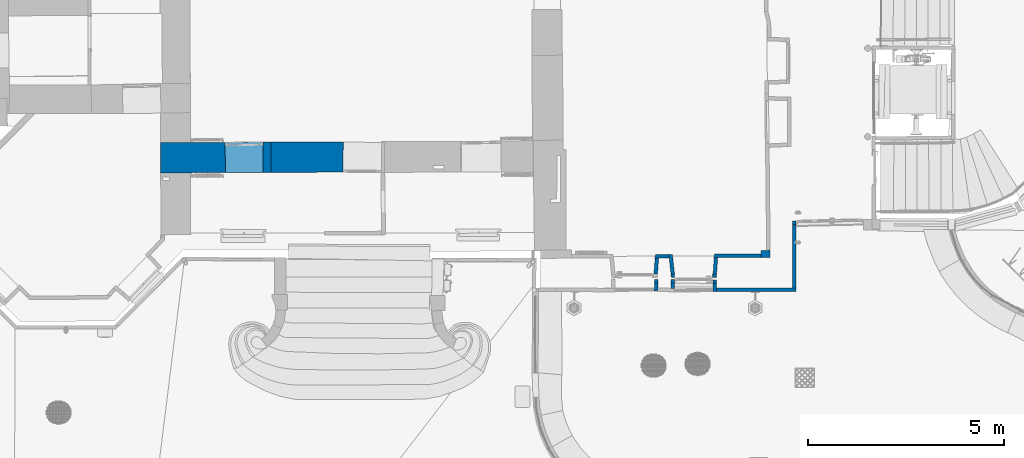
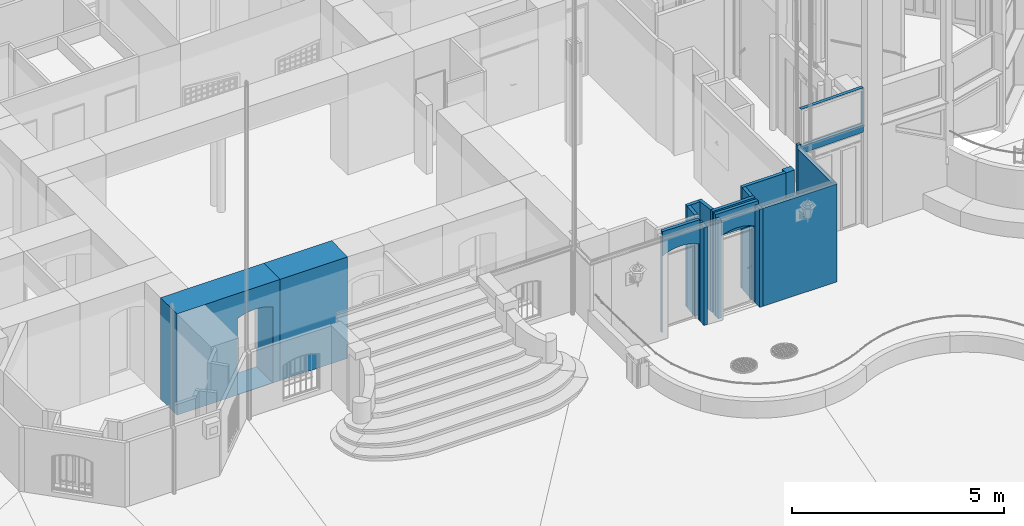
# One storey, part 17 of 133: 17 walls, 6 openings.
"""IFC2X3 building model written with IfcOpenShell, lengths in centimetres."""

from ifc_helpers import new_model, entity, si_unit, converted_unit, point, direction, frame, frame_2d, origin, origin_with_axes, origin_2d_with_axis, place, context, subcontext, project, spatial, polyline, circle_curve, trimmed, segment, composite_curve, rectangle, outline, extrude, clip, bounded_halfspace, shape, material, layer, layer_set, layer_usage, type_object, element, save


model = new_model("IFC2X3")

# Units and contexts
model_context = context("Model", 3, precision=0.0001, world=origin(), true_north=direction((0.225632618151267, 0.974212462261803, 0.0)))
body_context = subcontext(model_context, "Body", "Model", "MODEL_VIEW")
footprint_context = subcontext(model_context, "FootPrint", "Model", "MODEL_VIEW")
profile_context = subcontext(model_context, "Profile", "Model", "MODEL_VIEW")
ifc_project = project(units=[si_unit("LENGTHUNIT", "METRE", prefix="CENTI"), si_unit("AREAUNIT", "SQUARE_METRE", prefix="CENTI"), si_unit("VOLUMEUNIT", "CUBIC_METRE", prefix="CENTI"), converted_unit("PLANEANGLEUNIT", "DEGREE", entity("IfcRatioMeasure", 0.0174532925), si_unit("PLANEANGLEUNIT", "RADIAN"), dimensions=[0, 0, 0, 0, 0, 0, 0])], contexts=[model_context])

# Site, building, storey
site_placement = place(None, origin_with_axes())
site = spatial("IfcSite", under=ifc_project, at=site_placement, Name="Default Site", CompositionType="ELEMENT")
building_placement = place(site_placement, origin_with_axes())
building = spatial("IfcBuilding", under=site, at=building_placement, Name="Default Building", CompositionType="ELEMENT")
storey_placement = place(building_placement, frame((0.0, 0.0, -291.400371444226), z_axis=(0.0, 0.0, 1.0), x_axis=(1.0, 0.0, 0.0)))
storey = spatial("IfcBuildingStorey", under=building, at=storey_placement, Name="Rez-de-Jardin", CompositionType="ELEMENT", Elevation=-291.400371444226)

# Wall
ifc_material = material(Name="<aucun>")
ifc_layer_1 = layer(ifc_material, 9.0)
ifc_layer_set_1 = layer_set([ifc_layer_1], Name="default")
ifc_layer_usage_1 = layer_usage(ifc_layer_set_1, "AXIS2", "POSITIVE", -4.5)
wall_type_1 = type_object("IfcWallType", Name="default 90", PredefinedType="NOTDEFINED", material=ifc_layer_set_1)
wall_1_placement = place(storey_placement, frame((695.704330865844, -1011.09900998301, -1.94511073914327e-11), z_axis=(0.0, 0.0, 1.0), x_axis=(0.0689829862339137, 0.997617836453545, 0.0)))
element("IfcWallStandardCase", 1, at=wall_1_placement, inside=storey, type_object=wall_type_1, material=ifc_layer_usage_1, Name="Enveloppe 591976", context=body_context, shape_type="SweptSolid", body=[
    extrude(outline(polyline([(0.0, 4.50000000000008), (1.77635683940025e-13, -4.49999999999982), (41.8348419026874, -4.50000000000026), (41.184736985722, 4.49999999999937), (0.0, 4.50000000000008)])), frame((0.0, 0.0, 8.88178419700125e-14), z_axis=(0.0, 0.0, 1.0), x_axis=(1.0, 0.0, 0.0)), (0.0, 0.0, 1.0), 291.413221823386),
])

# Wall, opening
ifc_layer_usage_2 = layer_usage(ifc_layer_set_1, "AXIS2", "POSITIVE", -4.5)
wall_2_placement = place(storey_placement, frame((588.862316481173, -1015.6679540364, -1.94511073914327e-11), z_axis=(0.0, 0.0, 1.0), x_axis=(0.999993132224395, 0.00370614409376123, 0.0)))
wall_2 = element("IfcWallStandardCase", 2, at=wall_2_placement, inside=storey, type_object=wall_type_1, material=ifc_layer_usage_2, Name="Enveloppe 591977", context=body_context, shape_type="SweptSolid", body=[
    extrude(outline(polyline([(-4.89655817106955, 3.56586341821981), (-4.05483215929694, -4.49999999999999), (110.738127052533, -4.49999999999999), (111.346312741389, 3.84588154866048), (102.370114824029, 4.50000000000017), (4.05483215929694, 4.49999999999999), (-4.89655817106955, 3.56586341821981)])), frame((0.0, 0.0, 8.88178419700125e-14), z_axis=(0.0, 0.0, 1.0), x_axis=(1.0, 0.0, 0.0)), (0.0, 0.0, 1.0), 291.413221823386),
])
opening_1_placement = place(wall_2_placement, frame((4.08190985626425, 1.13686837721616e-13, 1.94506633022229e-11), z_axis=(0.0, 0.0, 1.0), x_axis=(1.0, 1.05384451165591e-15, 0.0)))
cartesian_point_1 = entity("IfcCartesianPoint", [0.0, 0.0, 214.0])
cartesian_point_2 = entity("IfcCartesianPoint", [97.0525833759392, 4.49999999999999])
element("IfcOpeningElement", 3, at=opening_1_placement, cuts=wall_2, Name="4294966358_11", ObjectType="Opening", shapes=[
    shape(body_context, "Body", "SweptSolid", [extrude(outline(polyline([(0.0, 214.0), (0.0, 0.0), (97.0525833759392, 0.0), (97.0525833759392, 214.0), (0.0, 214.0)])), frame((0.0, 14.5, 0.0), z_axis=(0.0, -1.0, 0.0), x_axis=(1.0, 0.0, 0.0)), (0.0, 0.0, 1.0), 29.0)]),
    shape(profile_context, "Profile", "GeometricCurveSet", [entity("IfcGeometricCurveSet", [entity("IfcPolyline", [cartesian_point_1, entity("IfcCartesianPoint", [0.0, 0.0, 0.0]), entity("IfcCartesianPoint", [97.0525833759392, 0.0, 0.0]), entity("IfcCartesianPoint", [97.0525833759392, 0.0, 214.0]), cartesian_point_1])])]),
    shape(footprint_context, "FootPrint", "GeometricCurveSet", [entity("IfcGeometricCurveSet", [entity("IfcPolyline", [cartesian_point_2, entity("IfcCartesianPoint", [0.0, 4.49999999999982]), entity("IfcCartesianPoint", [0.0, -4.49999999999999]), entity("IfcCartesianPoint", [97.0525833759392, -4.49999999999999]), cartesian_point_2])])]),
])

# Walls
ifc_layer_usage_3 = layer_usage(ifc_layer_set_1, "AXIS2", "POSITIVE", -4.5)
wall_3_placement = place(storey_placement, frame((694.693818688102, -965.199978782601, -1.94511073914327e-11), z_axis=(0.0, 0.0, 1.0), x_axis=(0.999995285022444, 0.00307081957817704, 0.0)))
element("IfcWallStandardCase", 4, at=wall_3_placement, inside=storey, type_object=wall_type_1, material=ifc_layer_usage_3, Name="Enveloppe 591885", context=body_context, shape_type="SweptSolid", body=[
    extrude(outline(polyline([(-0.651543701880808, -4.49999999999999), (118.680320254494, -4.49999999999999), (118.680320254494, 4.49999999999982), (-0.00143878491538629, 4.49999999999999), (-0.651543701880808, -4.49999999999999)])), frame((0.0, 0.0, 8.88178419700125e-14), z_axis=(0.0, 0.0, 1.0), x_axis=(1.0, 0.0, 0.0)), (0.0, 0.0, 1.0), 291.413221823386),
])
ifc_layer_usage_4 = layer_usage(ifc_layer_set_1, "AXIS2", "POSITIVE", -4.5)
wall_4_placement = place(storey_placement, frame((544.952015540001, -1011.68821548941, -1.94511073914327e-11), z_axis=(0.0, 0.0, 1.0), x_axis=(0.075760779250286, 0.997126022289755, 0.0)))
element("IfcWallStandardCase", 5, at=wall_4_placement, inside=storey, type_object=wall_type_1, material=ifc_layer_usage_4, Name="Enveloppe 591620", context=body_context, shape_type="SweptSolid", body=[
    extrude(outline(polyline([(-1.77635683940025e-13, 4.50000000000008), (-3.5527136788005e-13, -4.4999999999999), (40.9580680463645, -4.50000000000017), (40.135055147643, 4.49999999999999), (-1.77635683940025e-13, 4.50000000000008)])), frame((0.0, 0.0, 8.88178419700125e-14), z_axis=(0.0, 0.0, 1.0), x_axis=(1.0, 0.0, 0.0)), (0.0, 0.0, 1.0), 291.413221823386),
])
ifc_layer_usage_5 = layer_usage(ifc_layer_set_1, "AXIS2", "POSITIVE", -4.5)
wall_5_placement = place(storey_placement, frame((588.454548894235, -1011.89598046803, -1.94511073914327e-11), z_axis=(0.0, 0.0, 1.0), x_axis=(-0.107478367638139, 0.994207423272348, 0.0)))
element("IfcWallStandardCase", 6, at=wall_5_placement, inside=storey, type_object=wall_type_1, material=ifc_layer_usage_5, Name="Enveloppe 591225", context=body_context, shape_type="SweptSolid", body=[
    extrude(outline(polyline([(50.8855604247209, 4.50000000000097), (0.26088184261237, 4.50000000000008), (0.260881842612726, -4.49999999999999), (50.0522431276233, -4.49999999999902), (50.8855604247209, 4.50000000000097)])), frame((0.0, 0.0, 8.88178419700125e-14), z_axis=(0.0, 0.0, 1.0), x_axis=(1.0, 0.0, 0.0)), (0.0, 0.0, 1.0), 291.413221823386),
])
ifc_layer_usage_6 = layer_usage(ifc_layer_set_1, "AXIS2", "POSITIVE", -4.5)
wall_6_placement = place(storey_placement, frame((544.2607729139, -966.815453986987, -1.94511073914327e-11), z_axis=(0.0, 0.0, 1.0), x_axis=(0.99988205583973, 0.0153582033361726, 0.0)))
element("IfcWallStandardCase", 7, at=wall_6_placement, inside=storey, type_object=wall_type_1, material=ifc_layer_usage_6, Name="Enveloppe 591529", context=body_context, shape_type="SweptSolid", body=[
    extrude(outline(polyline([(-0.824370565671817, -4.49999999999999), (35.157223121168, -4.49999999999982), (34.32390582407, 4.49999999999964), (-0.00135766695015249, 4.49999999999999), (-0.824370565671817, -4.49999999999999)])), frame((0.0, 0.0, 8.88178419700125e-14), z_axis=(0.0, 0.0, 1.0), x_axis=(1.0, 0.0, 0.0)), (0.0, 0.0, 1.0), 291.413221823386),
])

# Wall, opening
ifc_layer_usage_7 = layer_usage(ifc_layer_set_1, "AXIS2", "POSITIVE", -4.5)
wall_7_placement = place(storey_placement, frame((542.037226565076, -1029.52060407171, -1.94511073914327e-11), z_axis=(0.0, 0.0, 1.0), x_axis=(-0.99995742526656, 0.00922754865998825, 0.0)))
wall_7 = element("IfcWallStandardCase", 8, at=wall_7_placement, inside=storey, type_object=wall_type_1, material=ifc_layer_usage_7, Name="Enveloppe 229219", context=body_context, shape_type="Clipping", body=[
    clip(clip(extrude(outline(polyline([(100.711316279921, -4.50000000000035), (100.604156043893, 4.49999999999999), (-9.00587490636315, 4.49999999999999), (-9.33111762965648, -4.50000000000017), (100.711316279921, -4.50000000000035)])), frame((0.0, 0.0, 8.88178419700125e-14), z_axis=(0.0, 0.0, 1.0), x_axis=(1.0, 0.0, 0.0)), (0.0, 0.0, 1.0), 291.413221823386), bounded_halfspace(frame((-9.33111762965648, -4.50000000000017, 281.400371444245), z_axis=(0.0, 0.0, -1.0), x_axis=(1.0, 1.56819002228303e-15, 0.0)), True, frame((-9.33111762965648, -4.50000000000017, 281.400371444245), z_axis=(0.0, 0.0, 1.0), x_axis=(1.0, 0.0, 0.0)), polyline([(8.88178419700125e-14, -1.77635683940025e-13), (9.33111762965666, -1.77635683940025e-13), (9.33111762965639, 9.00000000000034), (0.325242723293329, 8.99999999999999), (8.88178419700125e-14, -1.77635683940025e-13)]))), bounded_halfspace(frame((100.604156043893, 4.49999999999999, 281.400371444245), z_axis=(0.0, 0.0, -1.0), x_axis=(3.87866821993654e-14, -1.0, 0.0)), True, frame((100.604156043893, 4.49999999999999, 281.400371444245), z_axis=(0.0, 0.0, 1.0), x_axis=(1.0, 0.0, 0.0)), polyline([(3.5527136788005e-13, -9.00000000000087), (0.107160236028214, -9.00000000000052), (0.0, -1.77635683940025e-13), (3.5527136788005e-13, -9.00000000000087)]))),
])
opening_2_placement = place(wall_7_placement, frame((0.332639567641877, 0.0, 4.48530101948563e-14), z_axis=(0.0, 0.0, 1.0), x_axis=(-1.0, -3.38964967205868e-15, 0.0)))
cartesian_point_3 = entity("IfcCartesianPoint", [0.0, 0.0, 220.924770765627])
cartesian_point_4 = entity("IfcCartesianPoint", [-100.271516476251, -1.77635683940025e-13, 220.924770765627])
cartesian_point_5 = entity("IfcCartesianPoint", [-100.271516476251, -4.50000000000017])
element("IfcOpeningElement", 9, at=opening_2_placement, cuts=wall_7, Name="Baie 230406", ObjectType="Opening", shapes=[
    shape(body_context, "Body", "SweptSolid", [extrude(outline(composite_curve([segment(polyline([(-8.88178419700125e-14, 220.924770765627), (-8.88178419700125e-14, 0.0), (100.271516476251, 0.0), (100.271516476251, 220.924770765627)]), True, "CONTINUOUS"), segment(trimmed(circle_curve(frame_2d((50.1357582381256, 128.407127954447), x_axis=(1.0, 0.0)), 105.228838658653), [point((100.271516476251, 220.924770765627))], [point((-8.88178419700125e-14, 220.924770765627))], True, "CARTESIAN"), True, "CONTINUOUS")], self_intersect=False)), frame((0.0, -14.5, 0.0), z_axis=(0.0, 1.0, 0.0), x_axis=(-1.0, 0.0, 0.0)), (0.0, 0.0, 1.0), 29.0)]),
    shape(profile_context, "Profile", "GeometricCurveSet", [entity("IfcGeometricCurveSet", [entity("IfcCompositeCurve", [entity("IfcCompositeCurveSegment", "CONTINUOUS", True, entity("IfcPolyline", [cartesian_point_3, entity("IfcCartesianPoint", [0.0, 0.0, 0.0]), entity("IfcCartesianPoint", [-100.271516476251, -1.77635683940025e-13, 0.0]), cartesian_point_4])), entity("IfcCompositeCurveSegment", "CONTINUOUS", True, entity("IfcTrimmedCurve", entity("IfcCircle", entity("IfcAxis2Placement3D", entity("IfcCartesianPoint", [-50.1357582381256, -1.77635683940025e-13, 128.407127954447]), entity("IfcDirection", [-1.77154679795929e-15, 1.0, 6.98737105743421e-15]), entity("IfcDirection", [1.0, 1.77154679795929e-15, 0.0])), 105.228838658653), [cartesian_point_4], [cartesian_point_3], True, "CARTESIAN"))], False)])]),
    shape(footprint_context, "FootPrint", "GeometricCurveSet", [entity("IfcGeometricCurveSet", [entity("IfcPolyline", [cartesian_point_5, entity("IfcCartesianPoint", [8.88178419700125e-14, -4.50000000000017]), entity("IfcCartesianPoint", [0.0, 4.49999999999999]), entity("IfcCartesianPoint", [-100.271516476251, 4.49999999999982]), cartesian_point_5])])]),
])

# Wall
ifc_layer_usage_8 = layer_usage(ifc_layer_set_1, "AXIS2", "POSITIVE", -4.5)
wall_8_placement = place(storey_placement, frame((587.483932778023, -1057.15190551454, -1.94511073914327e-11), z_axis=(0.0, 0.0, 1.0), x_axis=(0.0417987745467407, 0.999126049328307, 0.0)))
element("IfcWallStandardCase", 10, at=wall_8_placement, inside=storey, type_object=wall_type_1, material=ifc_layer_usage_8, Name="Enveloppe 229400", context=body_context, shape_type="SweptSolid", body=[
    extrude(outline(polyline([(9.0408800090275, 4.50000000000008), (9.00003363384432, -4.50000000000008), (22.6110311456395, -4.4999999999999), (22.6110311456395, 4.49999999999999), (9.0408800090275, 4.50000000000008)])), frame((0.0, 0.0, 4.44089209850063e-14), z_axis=(0.0, 0.0, 1.0), x_axis=(1.0, 0.0, 0.0)), (0.0, 0.0, 1.0), 281.400371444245),
])

# Wall, opening
ifc_layer_usage_9 = layer_usage(ifc_layer_set_1, "AXIS2", "POSITIVE", -4.5)
wall_9_placement = place(storey_placement, frame((700.492501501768, -1030.67750895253, -1.94511073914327e-11), z_axis=(0.0, 0.0, 1.0), x_axis=(-0.999992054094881, 0.00398644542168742, 0.0)))
wall_9 = element("IfcWallStandardCase", 11, at=wall_9_placement, inside=storey, type_object=wall_type_1, material=ifc_layer_usage_9, Name="Enveloppe 229437", context=body_context, shape_type="Clipping", body=[
    clip(clip(clip(extrude(rectangle(XDim=9.0004154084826, YDim=116.551128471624, at=origin_2d_with_axis()), frame((58.2756606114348, -0.000207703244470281, 8.88178419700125e-14), z_axis=(0.0, 0.0, 1.0), x_axis=(-2.10478317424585e-05, -0.999999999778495, 0.0)), (0.0, 0.0, 1.0), 291.413221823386), bounded_halfspace(frame((107.550303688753, 4.49999999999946, 281.400371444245), z_axis=(0.0, 0.0, 1.0), x_axis=(1.0, -1.46480050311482e-14, 0.0)), True, frame((107.550303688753, 4.49999999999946, 281.400371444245), z_axis=(0.0, 0.0, 1.0), x_axis=(1.0, 0.0, 0.0)), polyline([(0.0, -1.77635683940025e-13), (9.00101587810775, -3.5527136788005e-13), (8.99356265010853, -0.340339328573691), (0.0, -1.77635683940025e-13)]))), bounded_halfspace(frame((0.0, 4.49999999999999, 281.400371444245), z_axis=(0.0, 0.0, 1.0), x_axis=(0.0115776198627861, -0.999932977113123, 0.0)), True, frame((0.0, 4.49999999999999, 281.400371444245), z_axis=(0.0, 0.0, 1.0), x_axis=(1.0, 0.0, 0.0)), polyline([(0.0, -9.00000000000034), (0.0, 0.0), (0.104205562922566, -9.00000000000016), (0.0, -9.00000000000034)]))), bounded_halfspace(frame((116.551319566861, -4.50000000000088, 281.400371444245), z_axis=(0.0, 0.0, 1.0), x_axis=(-1.0, 7.66565630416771e-14, 0.0)), True, frame((116.551319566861, -4.50000000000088, 281.400371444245), z_axis=(0.0, 0.0, 1.0), x_axis=(1.0, 0.0, 0.0)), polyline([(-0.335156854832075, -3.5527136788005e-13), (-0.00745322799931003, 8.65966067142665), (0.0, -3.5527136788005e-13), (-0.335156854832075, -3.5527136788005e-13)]))),
])
opening_3_placement = place(wall_9_placement, frame((8.91314601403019, -2.27373675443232e-13, 1.94506633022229e-11), z_axis=(0.0, 0.0, 1.0), x_axis=(-1.0, 4.79304096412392e-15, 0.0)))
cartesian_point_6 = entity("IfcCartesianPoint", [1.77635683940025e-13, -1.77635683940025e-13, 220.924770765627])
cartesian_point_7 = entity("IfcCartesianPoint", [-98.4571234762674, 0.0, 220.924770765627])
cartesian_point_8 = entity("IfcCartesianPoint", [-98.4571234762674, -4.50000000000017])
element("IfcOpeningElement", 12, at=opening_3_placement, cuts=wall_9, Name="4294966552_12", ObjectType="Opening", shapes=[
    shape(body_context, "Body", "SweptSolid", [extrude(outline(composite_curve([segment(polyline([(-1.77635683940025e-13, 220.924770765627), (-1.77635683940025e-13, -4.44089209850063e-14), (98.4571234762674, -4.44089209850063e-14), (98.4571234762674, 220.924770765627)]), True, "CONTINUOUS"), segment(trimmed(circle_curve(frame_2d((49.2285617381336, 130.081216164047), x_axis=(1.0, 0.0)), 103.32474390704), [point((98.4571234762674, 220.924770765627))], [point((-1.77635683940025e-13, 220.924770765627))], True, "CARTESIAN"), True, "CONTINUOUS")], self_intersect=False)), frame((0.0, -14.5, 0.0), z_axis=(0.0, 1.0, 0.0), x_axis=(-1.0, 0.0, 0.0)), (0.0, 0.0, 1.0), 29.0)]),
    shape(profile_context, "Profile", "GeometricCurveSet", [entity("IfcGeometricCurveSet", [entity("IfcCompositeCurve", [entity("IfcCompositeCurveSegment", "CONTINUOUS", True, entity("IfcPolyline", [cartesian_point_6, entity("IfcCartesianPoint", [1.77635683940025e-13, -1.77635683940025e-13, -4.44089209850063e-14]), entity("IfcCartesianPoint", [-98.4571234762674, 0.0, -4.44089209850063e-14]), cartesian_point_7])), entity("IfcCompositeCurveSegment", "CONTINUOUS", True, entity("IfcTrimmedCurve", entity("IfcCircle", entity("IfcAxis2Placement3D", entity("IfcCartesianPoint", [-49.2285617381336, 0.0, 130.081216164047]), entity("IfcDirection", [1.8041933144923e-15, 1.0, -7.11613611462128e-15]), entity("IfcDirection", [1.0, -1.8041933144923e-15, 0.0])), 103.32474390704), [cartesian_point_7], [cartesian_point_6], True, "CARTESIAN"))], False)])]),
    shape(footprint_context, "FootPrint", "GeometricCurveSet", [entity("IfcGeometricCurveSet", [entity("IfcPolyline", [cartesian_point_8, entity("IfcCartesianPoint", [1.77635683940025e-13, -4.50000000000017]), entity("IfcCartesianPoint", [1.77635683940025e-13, 4.50000000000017]), entity("IfcCartesianPoint", [-98.4571234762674, 4.49999999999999]), cartesian_point_8])])]),
])

# Walls
ifc_layer_usage_10 = layer_usage(ifc_layer_set_1, "AXIS2", "POSITIVE", -4.5)
wall_10_placement = place(storey_placement, frame((545.537706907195, -1055.23245641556, -1.94511073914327e-11), z_axis=(0.0, 0.0, 1.0), x_axis=(0.0453344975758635, 0.998971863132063, 0.0)))
element("IfcWallStandardCase", 13, at=wall_10_placement, inside=storey, type_object=wall_type_1, material=ifc_layer_usage_10, Name="Enveloppe 229326", context=body_context, shape_type="SweptSolid", body=[
    extrude(outline(polyline([(0.0509601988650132, 4.50000000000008), (0.0419658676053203, -4.50000000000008), (21.3549027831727, -4.50000000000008), (21.0296600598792, 4.49999999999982), (0.0509601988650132, 4.50000000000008)])), frame((0.0, 0.0, 1.33226762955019e-13), z_axis=(0.0, 0.0, 1.0), x_axis=(1.0, 0.0, 0.0)), (0.0, 0.0, 1.0), 281.400371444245),
])
ifc_layer_usage_11 = layer_usage(ifc_layer_set_1, "AXIS2", "POSITIVE", -4.5)
wall_11_placement = place(storey_placement, frame((696.133918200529, -1056.26976177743, -1.94511073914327e-11), z_axis=(0.0, 0.0, 1.0), x_axis=(-0.00757012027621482, 0.999971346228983, 0.0)))
element("IfcWallStandardCase", 14, at=wall_11_placement, inside=storey, type_object=wall_type_1, material=ifc_layer_usage_11, Name="Enveloppe 229564", context=body_context, shape_type="SweptSolid", body=[
    extrude(outline(polyline([(21.1628416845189, 4.50000000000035), (0.00383003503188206, 4.49999999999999), (-0.0584643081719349, -4.50000000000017), (21.0588272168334, -4.49999999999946), (21.1628416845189, 4.50000000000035)])), frame((0.0, 0.0, 8.88178419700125e-14), z_axis=(0.0, 0.0, 1.0), x_axis=(1.0, 0.0, 0.0)), (0.0, 0.0, 1.0), 281.400371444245),
])

# Wall, openings
ifc_layer_usage_12 = layer_usage(ifc_layer_set_1, "AXIS2", "POSITIVE", -4.5)
wall_12_placement = place(storey_placement, frame((902.950751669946, -880.856620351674, -1.94511073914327e-11), z_axis=(0.0, 0.0, 1.0), x_axis=(0.999752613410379, 0.0222421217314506, 0.0)))
wall_12 = element("IfcWallStandardCase", 15, at=wall_12_placement, inside=storey, type_object=wall_type_1, material=ifc_layer_usage_12, Name="Enveloppe 238929", context=body_context, shape_type="Clipping", body=[
    clip(extrude(outline(polyline([(-9.17824517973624, -4.49999999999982), (171.546982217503, -4.49999999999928), (171.546982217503, 4.50000000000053), (-8.95163897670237, 4.50000000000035), (-9.17824517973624, -4.49999999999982)])), frame((0.0, 0.0, 4.44089209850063e-14), z_axis=(0.0, 0.0, 1.0), x_axis=(1.0, 0.0, 0.0)), (0.0, 0.0, 1.0), 391.400371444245), bounded_halfspace(frame((-9.17824517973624, -4.49999999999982, 291.413221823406), z_axis=(0.0, 0.0, -1.0), x_axis=(1.0, 8.31973379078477e-15, 0.0)), True, frame((-9.17824517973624, -4.49999999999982, 291.413221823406), z_axis=(0.0, 0.0, 1.0), x_axis=(1.0, 0.0, 0.0)), polyline([(-1.77635683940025e-13, 0.0), (9.17824517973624, 3.5527136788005e-13), (9.17824517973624, 8.99999999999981), (0.226606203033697, 9.00000000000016), (-1.77635683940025e-13, 0.0)]))),
])
opening_4_placement = place(wall_12_placement, frame((-2.27373675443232e-13, 0.0, 287.00000000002), z_axis=(0.0, 0.0, 1.0), x_axis=(1.0, 1.18308141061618e-15, 0.0)))
cartesian_point_9 = entity("IfcCartesianPoint", [0.0, 0.0, 104.0])
cartesian_point_10 = entity("IfcCartesianPoint", [171.472326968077, 4.49999999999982])
element("IfcOpeningElement", 16, at=opening_4_placement, cuts=wall_12, Name="4294966518_11", ObjectType="Opening", shapes=[
    shape(body_context, "Body", "SweptSolid", [extrude(outline(polyline([(0.0, 104.0), (0.0, -2.99999999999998), (171.472326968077, -2.99999999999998), (171.472326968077, 104.0), (0.0, 104.0)])), frame((0.0, 14.5, 0.0), z_axis=(0.0, -1.0, 0.0), x_axis=(1.0, 0.0, 0.0)), (0.0, 0.0, 1.0), 29.0)]),
    shape(profile_context, "Profile", "GeometricCurveSet", [entity("IfcGeometricCurveSet", [entity("IfcPolyline", [cartesian_point_9, entity("IfcCartesianPoint", [0.0, 0.0, 0.0]), entity("IfcCartesianPoint", [171.472326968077, -1.77635683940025e-13, 0.0]), entity("IfcCartesianPoint", [171.472326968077, -1.77635683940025e-13, 104.0]), cartesian_point_9])])]),
    shape(footprint_context, "FootPrint", "GeometricCurveSet", [entity("IfcGeometricCurveSet", [entity("IfcPolyline", [cartesian_point_10, entity("IfcCartesianPoint", [0.0, 4.49999999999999]), entity("IfcCartesianPoint", [0.0, -4.49999999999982]), entity("IfcCartesianPoint", [171.472326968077, -4.49999999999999]), cartesian_point_10])])]),
])
opening_5_placement = place(wall_12_placement, frame((0.0, 0.0, -1.33226762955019e-13), z_axis=(0.0, 0.0, 1.0), x_axis=(1.0, 1.18308141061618e-15, 0.0)))
cartesian_point_11 = entity("IfcCartesianPoint", [0.0, 0.0, 263.999023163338])
cartesian_point_12 = entity("IfcCartesianPoint", [171.672254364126, 4.49999999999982])
element("IfcOpeningElement", 17, at=opening_5_placement, cuts=wall_12, Name="4294966385_11", ObjectType="Opening", shapes=[
    shape(body_context, "Body", "SweptSolid", [extrude(outline(polyline([(0.0, 263.999023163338), (0.0, 0.0), (171.672254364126, 0.0), (171.672254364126, 263.999023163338), (0.0, 263.999023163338)])), frame((0.0, 14.5, 0.0), z_axis=(0.0, -1.0, 0.0), x_axis=(1.0, 0.0, 0.0)), (0.0, 0.0, 1.0), 29.0)]),
    shape(profile_context, "Profile", "GeometricCurveSet", [entity("IfcGeometricCurveSet", [entity("IfcPolyline", [cartesian_point_11, entity("IfcCartesianPoint", [0.0, 0.0, 0.0]), entity("IfcCartesianPoint", [171.672254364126, 0.0, 0.0]), entity("IfcCartesianPoint", [171.672254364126, 0.0, 263.999023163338]), cartesian_point_11])])]),
    shape(footprint_context, "FootPrint", "GeometricCurveSet", [entity("IfcGeometricCurveSet", [entity("IfcPolyline", [cartesian_point_12, entity("IfcCartesianPoint", [0.0, 4.49999999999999]), entity("IfcCartesianPoint", [0.0, -4.49999999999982]), entity("IfcCartesianPoint", [171.672254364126, -4.49999999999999]), cartesian_point_12])])]),
])

# Wall, opening
ifc_layer_2 = layer(ifc_material, 77.0)
ifc_layer_set_2 = layer_set([ifc_layer_2], Name="default")
ifc_layer_usage_13 = layer_usage(ifc_layer_set_2, "AXIS2", "POSITIVE", -38.5)
wall_type_2 = type_object("IfcWallType", Name="default 770", PredefinedType="NOTDEFINED", material=ifc_layer_set_2)
wall_13_placement = place(storey_placement, frame((-641.069749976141, -714.825087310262, -1.94511073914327e-11), z_axis=(0.0, 0.0, 1.0), x_axis=(0.999986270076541, 0.0052401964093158, 0.0)))
wall_13 = element("IfcWallStandardCase", 18, at=wall_13_placement, inside=storey, type_object=wall_type_2, material=ifc_layer_usage_13, Name="Enveloppe 53121", context=body_context, shape_type="SweptSolid", body=[
    extrude(outline(polyline([(-76.0000805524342, 38.4999999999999), (-76.0928380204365, -38.5), (205.202580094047, -38.4967732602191), (205.461895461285, 38.5027901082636), (-76.0000805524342, 38.4999999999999)])), frame((0.0, 0.0, 1.33226762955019e-13), z_axis=(0.0, 0.0, 1.0), x_axis=(1.0, 0.0, 0.0)), (0.0, 0.0, 1.0), 291.413221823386),
])
opening_6_placement = place(wall_13_placement, frame((88.6864367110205, 1.13686837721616e-13, 1.31164938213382), z_axis=(0.0, 0.0, 1.0), x_axis=(-1.0, -3.49546780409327e-16, 0.0)))
cartesian_point_13 = entity("IfcCartesianPoint", [0.0, 0.0, 218.0])
cartesian_point_14 = entity("IfcCartesianPoint", [-96.1394083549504, 0.0, 218.0])
cartesian_point_15 = entity("IfcCartesianPoint", [-96.1394083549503, -38.5000000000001])
element("IfcOpeningElement", 19, at=opening_6_placement, cuts=wall_13, Name="4294966327_12", ObjectType="Opening", shapes=[
    shape(body_context, "Body", "SweptSolid", [extrude(outline(composite_curve([segment(polyline([(0.0, 218.0), (0.0, 0.0), (96.1394083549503, 0.0), (96.1394083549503, 218.0)]), True, "CONTINUOUS"), segment(trimmed(circle_curve(frame_2d((48.0697041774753, 111.436495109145), x_axis=(1.0, 0.0)), 116.90370838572), [point((96.1394083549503, 218.0))], [point((0.0, 218.0))], True, "CARTESIAN"), True, "CONTINUOUS")], self_intersect=False)), frame((0.0, -48.5, 0.0), z_axis=(0.0, 1.0, 0.0), x_axis=(-1.0, 0.0, 0.0)), (0.0, 0.0, 1.0), 97.0)]),
    shape(profile_context, "Profile", "GeometricCurveSet", [entity("IfcGeometricCurveSet", [entity("IfcCompositeCurve", [entity("IfcCompositeCurveSegment", "CONTINUOUS", True, entity("IfcPolyline", [cartesian_point_13, entity("IfcCartesianPoint", [0.0, 0.0, 0.0]), entity("IfcCartesianPoint", [-96.1394083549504, 0.0, 0.0]), cartesian_point_14])), entity("IfcCompositeCurveSegment", "CONTINUOUS", True, entity("IfcTrimmedCurve", entity("IfcCircle", entity("IfcAxis2Placement3D", entity("IfcCartesianPoint", [-48.0697041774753, 0.0, 111.436495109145]), entity("IfcDirection", [0.0, 1.0, 0.0]), entity("IfcDirection", [1.0, 0.0, 0.0])), 116.90370838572), [cartesian_point_14], [cartesian_point_13], True, "CARTESIAN"))], False)])]),
    shape(footprint_context, "FootPrint", "GeometricCurveSet", [entity("IfcGeometricCurveSet", [entity("IfcPolyline", [cartesian_point_15, entity("IfcCartesianPoint", [0.0, -38.5000000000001]), entity("IfcCartesianPoint", [0.0, 38.5]), entity("IfcCartesianPoint", [-96.1394083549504, 38.5]), cartesian_point_15])])]),
])

# Walls
ifc_layer_usage_14 = layer_usage(ifc_layer_set_2, "AXIS2", "POSITIVE", -38.5)
wall_14_placement = place(storey_placement, frame((-435.871313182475, -713.746342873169, -1.94511073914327e-11), z_axis=(0.0, 0.0, 1.0), x_axis=(0.999998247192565, 0.00187232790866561, 0.0)))
element("IfcWallStandardCase", 20, at=wall_14_placement, inside=storey, type_object=wall_type_2, material=ifc_layer_usage_14, Name="Enveloppe 53149", context=body_context, shape_type="SweptSolid", body=[
    extrude(outline(polyline([(-0.00595863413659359, 38.4967487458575), (0.130960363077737, 38.5000000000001), (0.130960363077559, -38.5000000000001), (183.550270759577, -38.5), (184.632947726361, 38.4923880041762), (184.010681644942, 38.5), (-0.00595863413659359, 38.4967487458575)])), frame((0.0, 0.0, 1.77635683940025e-13), z_axis=(0.0, 0.0, 1.0), x_axis=(1.0, 0.0, 0.0)), (0.0, 0.0, 1.0), 291.413221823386),
])
ifc_layer_usage_15 = layer_usage(ifc_layer_set_1, "AXIS2", "POSITIVE", -4.5)
wall_type_3 = type_object("IfcWallType", Name="default 90", PredefinedType="NOTDEFINED", material=ifc_layer_set_1)
wall_15_placement = place(storey_placement, frame((691.627080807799, -1051.80000094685, -1.94511073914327e-11), z_axis=(0.0, 0.0, 1.0), x_axis=(0.99999978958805, 0.000648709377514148, 0.0)))
element("IfcWallStandardCase", 21, at=wall_15_placement, inside=storey, type_object=wall_type_3, material=ifc_layer_usage_15, Name="Enveloppe 229601", context=body_context, shape_type="SweptSolid", body=[
    extrude(outline(polyline([(8.94193939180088, 4.50000000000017), (9.00423373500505, -4.49999999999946), (210.745217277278, -4.49999999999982), (210.777418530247, 4.49999999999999), (8.94193939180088, 4.50000000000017)])), frame((0.0, 0.0, 8.88178419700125e-14), z_axis=(0.0, 0.0, 1.0), x_axis=(1.0, 0.0, 0.0)), (0.0, 0.0, 1.0), 281.400371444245),
])
ifc_layer_usage_16 = layer_usage(ifc_layer_set_1, "AXIS2", "POSITIVE", -4.5)
wall_16_placement = place(storey_placement, frame((897.875276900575, -1056.121203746, -1.94511073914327e-11), z_axis=(0.0, 0.0, 1.0), x_axis=(0.00292918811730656, 0.999995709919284, 0.0)))
element("IfcWallStandardCase", 22, at=wall_16_placement, inside=storey, type_object=wall_type_3, material=ifc_layer_usage_16, Name="Enveloppe 238930", context=body_context, shape_type="SweptSolid", body=[
    extrude(outline(polyline([(8.93895372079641, 4.49999999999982), (8.97115497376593, -4.49999999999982), (170.775709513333, -4.50000000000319), (170.549103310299, 4.49999999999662), (8.93895372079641, 4.49999999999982)])), frame((0.0, 0.0, 8.88178419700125e-14), z_axis=(0.0, 0.0, 1.0), x_axis=(1.0, 0.0, 0.0)), (0.0, 0.0, 1.0), 281.400371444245),
])
ifc_layer_3 = layer(ifc_material, 18.0)
ifc_layer_set_3 = layer_set([ifc_layer_3], Name="default")
ifc_layer_usage_17 = layer_usage(ifc_layer_set_3, "AXIS2", "POSITIVE", -9.0)
wall_type_4 = type_object("IfcWallType", Name="default 180", PredefinedType="NOTDEFINED", material=ifc_layer_set_3)
wall_17_placement = place(storey_placement, frame((813.360615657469, -960.367617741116, -1.94511073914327e-11), z_axis=(0.0, 0.0, 1.0), x_axis=(0.999644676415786, 0.0266555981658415, 0.0)))
element("IfcWallStandardCase", 23, at=wall_17_placement, inside=storey, type_object=wall_type_4, material=ifc_layer_usage_17, Name="Enveloppe 230211", context=body_context, shape_type="SweptSolid", body=[
    extrude(outline(polyline([(0.0, 8.99999999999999), (-1.77635683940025e-13, 0.0320749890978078), (-0.212271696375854, -8.96542136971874), (1.25340227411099, -9.00000000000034), (23.4112122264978, -9.00000000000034), (23.6994324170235, 9.00000000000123), (0.0, 8.99999999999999)])), frame((0.0, 0.0, 1.33226762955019e-13), z_axis=(0.0, 0.0, 1.0), x_axis=(1.0, 0.0, 0.0)), (0.0, 0.0, 1.0), 291.413221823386),
])

save(model, "model.ifc")
